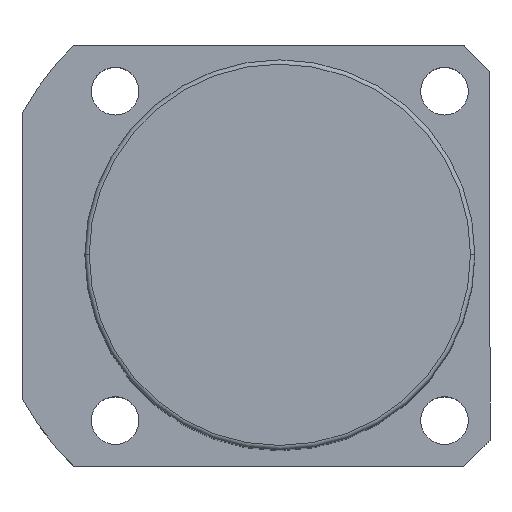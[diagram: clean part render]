
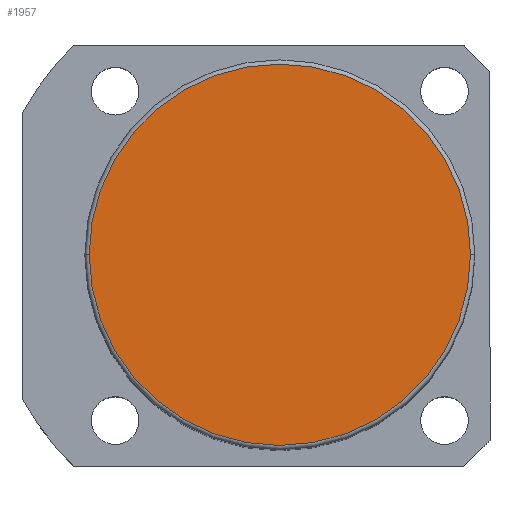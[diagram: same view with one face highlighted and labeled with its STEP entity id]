
A CAD part, top view. The second image highlights one B-rep face of the part: STEP entity #1957.
In plain terms, the highlighted planar face has unit normal (0, 0, 1).
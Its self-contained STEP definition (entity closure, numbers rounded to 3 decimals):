
#48 = FACE_OUTER_BOUND ( 'NONE', #1002, .T. ) ;
#53 = AXIS2_PLACEMENT_3D ( 'NONE', #1369, #583, #1943 ) ;
#202 = EDGE_CURVE ( 'NONE', #1107, #731, #615, .T. ) ;
#216 = CARTESIAN_POINT ( 'NONE',  ( 0., 0., 156.5 ) ) ;
#237 = EDGE_CURVE ( 'NONE', #731, #1107, #1663, .T. ) ;
#277 = CARTESIAN_POINT ( 'NONE',  ( 0., 0., 156.5 ) ) ;
#583 = DIRECTION ( 'NONE',  ( 0., 0., 1. ) ) ;
#615 = CIRCLE ( 'NONE', #53, 44. ) ;
#731 = VERTEX_POINT ( 'NONE', #1423 ) ;
#836 = DIRECTION ( 'NONE',  ( 1., 0., 0. ) ) ;
#843 = PLANE ( 'NONE',  #882 ) ;
#882 = AXIS2_PLACEMENT_3D ( 'NONE', #216, #1142, #836 ) ;
#951 = ORIENTED_EDGE ( 'NONE', *, *, #237, .T. ) ;
#1002 = EDGE_LOOP ( 'NONE', ( #1041, #951 ) ) ;
#1041 = ORIENTED_EDGE ( 'NONE', *, *, #202, .T. ) ;
#1107 = VERTEX_POINT ( 'NONE', #1681 ) ;
#1142 = DIRECTION ( 'NONE',  ( 0., 0., 1. ) ) ;
#1192 = AXIS2_PLACEMENT_3D ( 'NONE', #277, #1195, #1784 ) ;
#1195 = DIRECTION ( 'NONE',  ( 0., 0., 1. ) ) ;
#1369 = CARTESIAN_POINT ( 'NONE',  ( 0., 0., 156.5 ) ) ;
#1423 = CARTESIAN_POINT ( 'NONE',  ( -44., 0., 156.5 ) ) ;
#1663 = CIRCLE ( 'NONE', #1192, 44. ) ;
#1681 = CARTESIAN_POINT ( 'NONE',  ( 44., 0., 156.5 ) ) ;
#1784 = DIRECTION ( 'NONE',  ( 1., 0., 0. ) ) ;
#1943 = DIRECTION ( 'NONE',  ( 1., 0., 0. ) ) ;
#1957 = ADVANCED_FACE ( 'NONE', ( #48 ), #843, .T. ) ;
